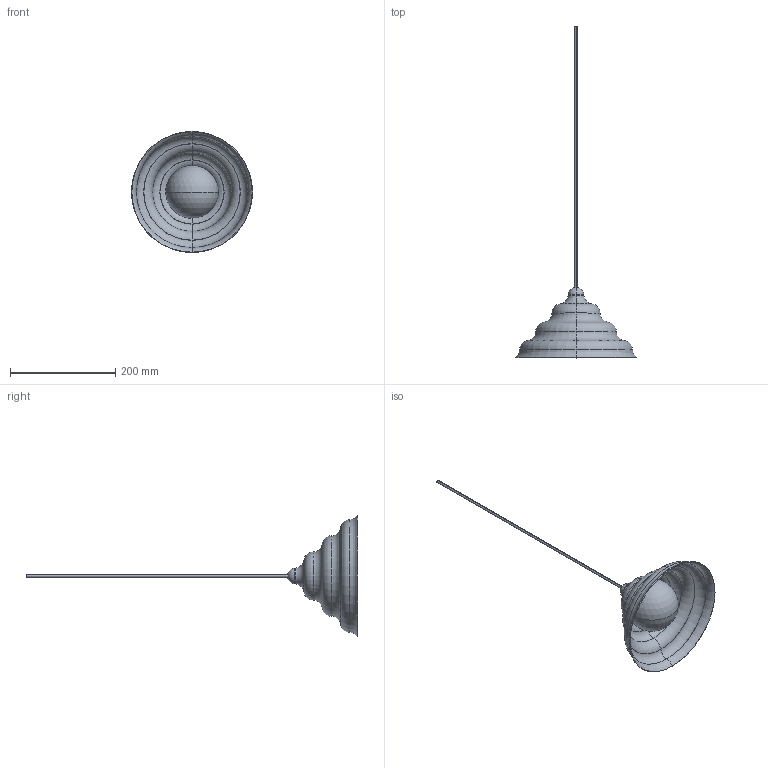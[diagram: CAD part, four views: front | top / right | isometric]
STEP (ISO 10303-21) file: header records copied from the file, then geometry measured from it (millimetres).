
FILE_DESCRIPTION (( 'STEP AP203' ), '1' );
FILE_NAME ('2023 12 19 FALA klosz M .STEP', '2024-03-06T15:14:41', ( '' ), ( '' ), 'SwSTEP 2.0', 'SolidWorks 2019', '' );
FILE_SCHEMA (( 'CONFIG_CONTROL_DESIGN' ));
Length unit declared in the file: millimetre
Products named in the file (1): 2023 12 19 FALA klosz M 
Bounding box: 230.48 x 631.37 x 230.48 mm (x, y, z)
Volume: 639609.3 mm3; surface area: 182860.7 mm2
Topology: 5 solids, 5 shells, 51 faces, 97 edges, 54 vertices
Faces by surface type: torus 34, plane 9, cylinder 4, cone 2, sphere 2
Entity records: 1333 total; most frequent: DIRECTION 282, CARTESIAN_POINT 195, ORIENTED_EDGE 184, AXIS2_PLACEMENT_3D 138, EDGE_CURVE 92, CIRCLE 86, ADVANCED_FACE 51, VERTEX_POINT 51
